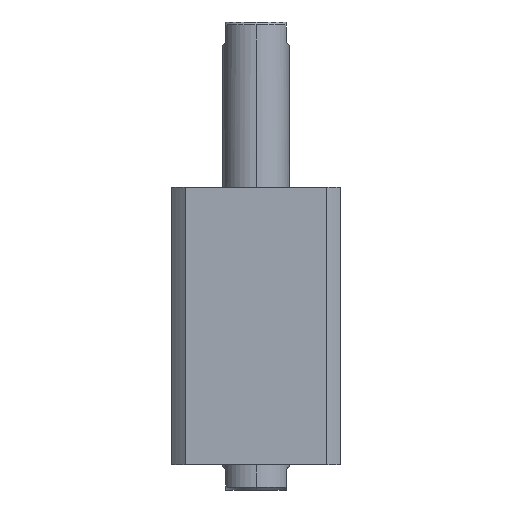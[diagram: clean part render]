
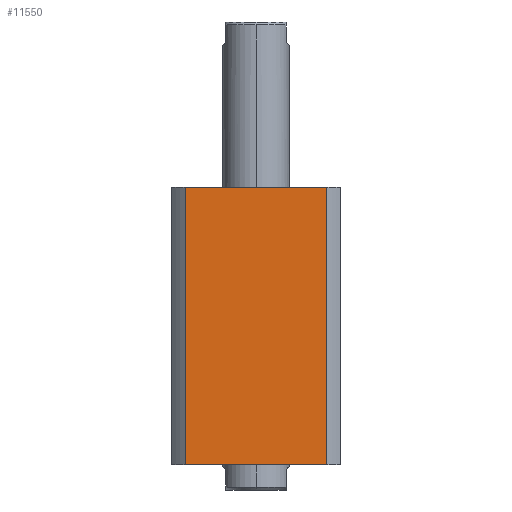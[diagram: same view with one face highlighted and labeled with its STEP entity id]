
A CAD part, front view. The second image highlights one B-rep face of the part: STEP entity #11550.
In plain terms, the highlighted planar face has unit normal (0, -1, 0) as drawn and (1, 0, 0) by its records, which use the part's own axes.
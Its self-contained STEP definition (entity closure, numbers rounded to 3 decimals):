
#516 = VERTEX_POINT ( 'NONE', #8876 ) ;
#866 = EDGE_CURVE ( 'NONE', #8583, #516, #7589, .T. ) ;
#876 = VERTEX_POINT ( 'NONE', #3196 ) ;
#1053 = DIRECTION ( 'NONE',  ( -1., 0., 0. ) ) ;
#1783 = VECTOR ( 'NONE', #2379, 1000. ) ;
#1958 = DIRECTION ( 'NONE',  ( 0., 1., 0. ) ) ;
#2379 = DIRECTION ( 'NONE',  ( 0., 0., 1. ) ) ;
#2434 = EDGE_CURVE ( 'NONE', #516, #876, #2831, .T. ) ;
#2831 = LINE ( 'NONE', #6487, #15714 ) ;
#3179 = ORIENTED_EDGE ( 'NONE', *, *, #11632, .F. ) ;
#3196 = CARTESIAN_POINT ( 'NONE',  ( 57., 47.971, 0. ) ) ;
#3220 = EDGE_LOOP ( 'NONE', ( #3179, #6431, #12870, #3561 ) ) ;
#3258 = CARTESIAN_POINT ( 'NONE',  ( 57., -47.971, 188. ) ) ;
#3477 = FACE_OUTER_BOUND ( 'NONE', #3220, .T. ) ;
#3542 = VERTEX_POINT ( 'NONE', #14550 ) ;
#3561 = ORIENTED_EDGE ( 'NONE', *, *, #866, .F. ) ;
#4353 = VECTOR ( 'NONE', #1958, 1000. ) ;
#4489 = AXIS2_PLACEMENT_3D ( 'NONE', #8322, #1053, #9537 ) ;
#5568 = CARTESIAN_POINT ( 'NONE',  ( 57., 57., 188. ) ) ;
#6429 = CARTESIAN_POINT ( 'NONE',  ( 57., 57., 0. ) ) ;
#6431 = ORIENTED_EDGE ( 'NONE', *, *, #9530, .T. ) ;
#6487 = CARTESIAN_POINT ( 'NONE',  ( 57., 47.971, -112. ) ) ;
#7163 = CARTESIAN_POINT ( 'NONE',  ( 57., -47.971, -112. ) ) ;
#7589 = LINE ( 'NONE', #5568, #4353 ) ;
#8062 = LINE ( 'NONE', #6429, #14155 ) ;
#8322 = CARTESIAN_POINT ( 'NONE',  ( 57., 57., 188. ) ) ;
#8583 = VERTEX_POINT ( 'NONE', #3258 ) ;
#8876 = CARTESIAN_POINT ( 'NONE',  ( 57., 47.971, 188. ) ) ;
#9530 = EDGE_CURVE ( 'NONE', #3542, #876, #8062, .T. ) ;
#9537 = DIRECTION ( 'NONE',  ( 0., -1., 0. ) ) ;
#9958 = LINE ( 'NONE', #7163, #1783 ) ;
#10148 = DIRECTION ( 'NONE',  ( 0., 1., 0. ) ) ;
#11550 = ADVANCED_FACE ( 'NONE', ( #3477 ), #15600, .F. ) ;
#11632 = EDGE_CURVE ( 'NONE', #3542, #8583, #9958, .T. ) ;
#12870 = ORIENTED_EDGE ( 'NONE', *, *, #2434, .F. ) ;
#13765 = DIRECTION ( 'NONE',  ( 0., 0., -1. ) ) ;
#14155 = VECTOR ( 'NONE', #10148, 1000. ) ;
#14550 = CARTESIAN_POINT ( 'NONE',  ( 57., -47.971, 0. ) ) ;
#15600 = PLANE ( 'NONE',  #4489 ) ;
#15714 = VECTOR ( 'NONE', #13765, 1000. ) ;
